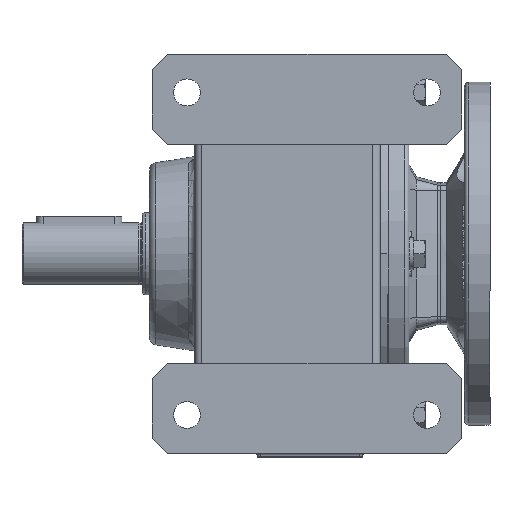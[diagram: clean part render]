
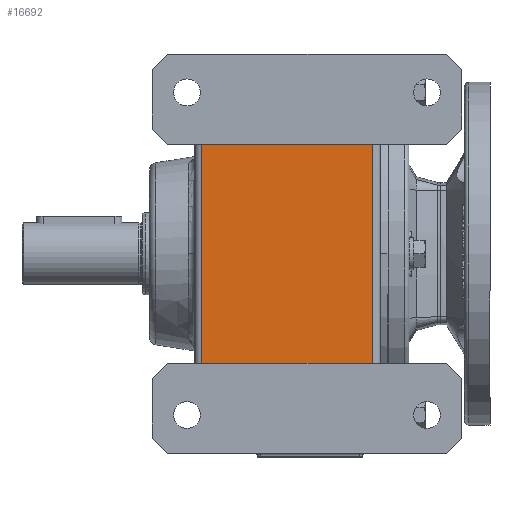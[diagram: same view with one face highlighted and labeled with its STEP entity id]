
A CAD part, front view. The second image highlights one B-rep face of the part: STEP entity #16692.
In plain terms, the highlighted planar face has unit normal (0, -1, 0).
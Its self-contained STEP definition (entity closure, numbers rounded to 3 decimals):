
#4919 = VERTEX_POINT ( 'NONE', #56908 ) ;
#5014 = VERTEX_POINT ( 'NONE', #57003 ) ;
#5016 = VERTEX_POINT ( 'NONE', #57005 ) ;
#10755 = PLANE ( 'NONE',  #71322 ) ;
#10756 = CARTESIAN_POINT ( 'NONE',  ( 160.324, -99., 133. ) ) ;
#10757 = DIRECTION ( 'NONE',  ( 0., 1., 0. ) ) ;
#10758 = DIRECTION ( 'NONE',  ( 0., 0., 1. ) ) ;
#11340 = EDGE_CURVE ( 'NONE', #46798, #5014, #76346, .T. ) ;
#11343 = EDGE_CURVE ( 'NONE', #46798, #4919, #76349, .T. ) ;
#11345 = EDGE_CURVE ( 'NONE', #5016, #5014, #76352, .T. ) ;
#11347 = EDGE_CURVE ( 'NONE', #5016, #4919, #76355, .T. ) ;
#16692 = ADVANCED_FACE ( 'NONE', ( #71315 ), #10755, .F. ) ;
#29234 = CARTESIAN_POINT ( 'NONE',  ( 5., -99., 73. ) ) ;
#33667 = VECTOR ( 'NONE', #76348, 1000. ) ;
#33670 = VECTOR ( 'NONE', #76357, 1000. ) ;
#33677 = VECTOR ( 'NONE', #76354, 1000. ) ;
#33683 = VECTOR ( 'NONE', #76351, 1000. ) ;
#41518 = EDGE_LOOP ( 'NONE', ( #46204, #46208, #46206, #46210 ) ) ;
#46204 = ORIENTED_EDGE ( 'NONE', *, *, #11343, .F. ) ;
#46206 = ORIENTED_EDGE ( 'NONE', *, *, #11345, .F. ) ;
#46208 = ORIENTED_EDGE ( 'NONE', *, *, #11340, .T. ) ;
#46210 = ORIENTED_EDGE ( 'NONE', *, *, #11347, .T. ) ;
#46798 = VERTEX_POINT ( 'NONE', #29234 ) ;
#56908 = CARTESIAN_POINT ( 'NONE',  ( 119., -99., 73. ) ) ;
#57003 = CARTESIAN_POINT ( 'NONE',  ( 5., -99., -73. ) ) ;
#57005 = CARTESIAN_POINT ( 'NONE',  ( 119., -99., -73. ) ) ;
#71315 = FACE_OUTER_BOUND ( 'NONE', #41518, .T. ) ;
#71322 = AXIS2_PLACEMENT_3D ( 'NONE', #10756, #10757, #10758 ) ;
#76346 = LINE ( 'NONE', #76347, #33667 ) ;
#76347 = CARTESIAN_POINT ( 'NONE',  ( 5., -99., -73. ) ) ;
#76348 = DIRECTION ( 'NONE',  ( 0., 0., -1. ) ) ;
#76349 = LINE ( 'NONE', #76350, #33683 ) ;
#76350 = CARTESIAN_POINT ( 'NONE',  ( 160.324, -99., 73. ) ) ;
#76351 = DIRECTION ( 'NONE',  ( 1., 0., 0. ) ) ;
#76352 = LINE ( 'NONE', #76353, #33677 ) ;
#76353 = CARTESIAN_POINT ( 'NONE',  ( 160.324, -99., -73. ) ) ;
#76354 = DIRECTION ( 'NONE',  ( -1., 0., 0. ) ) ;
#76355 = LINE ( 'NONE', #76356, #33670 ) ;
#76356 = CARTESIAN_POINT ( 'NONE',  ( 119., -99., 73. ) ) ;
#76357 = DIRECTION ( 'NONE',  ( 0., 0., 1. ) ) ;
